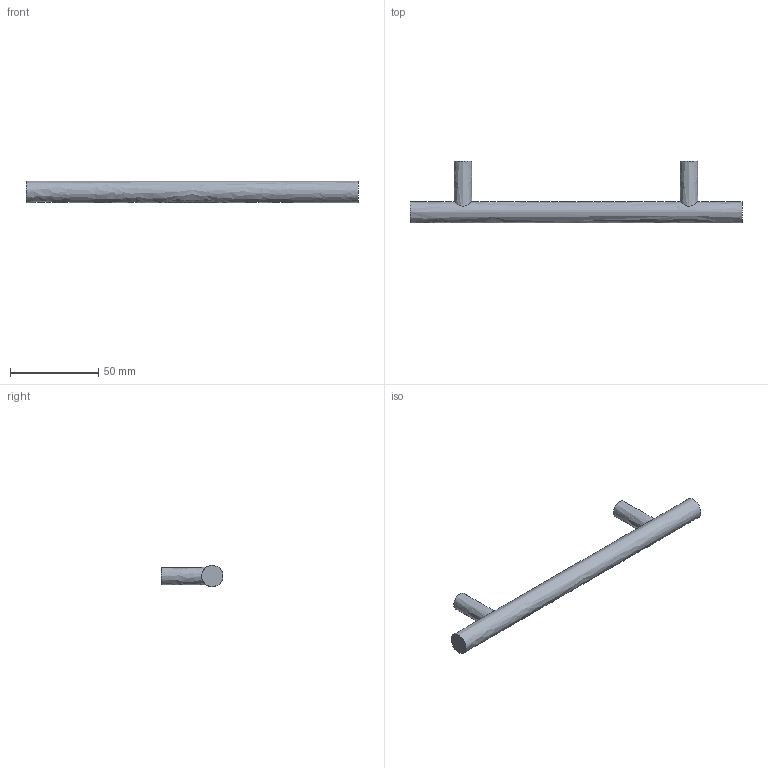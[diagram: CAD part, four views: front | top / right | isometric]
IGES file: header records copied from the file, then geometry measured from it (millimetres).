
Start section: Data from Parasolid IGES Translator 15.0.47, Copyright(c) 2006 Siemens P LM Software. All Rights Reserved.
Global section: file name: 9071005.igs; native system:  By UGS Corp.; preprocessor: XPlus GENERIC/IGES 3.0; author: Noname; organization: Noname; date: 20140122.181258; units: millimetre
Bounding box: 188 x 35 x 12 mm (x, y, z)
Surface area: 9119 mm2 (no closed solid volume)
Topology: 0 solids, 0 shells, 11 faces, 30 edges, 22 vertices
Faces by surface type: extrusion 6, revolution 5
